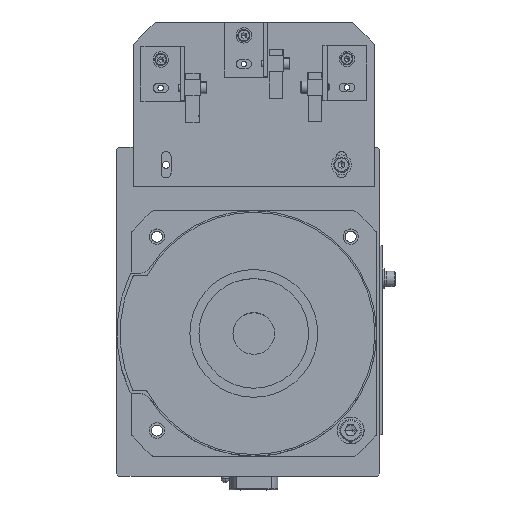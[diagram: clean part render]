
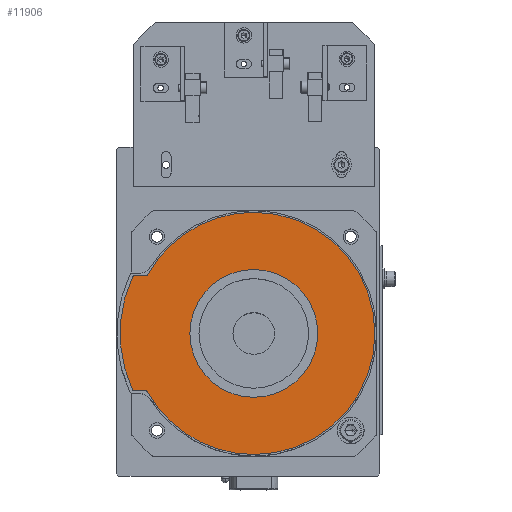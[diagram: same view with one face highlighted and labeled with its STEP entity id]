
A CAD part, top view. The second image highlights one B-rep face of the part: STEP entity #11906.
In plain terms, the highlighted planar face has unit normal (0, 0, 1) as drawn and (0, 1, 0) by its records, which use the part's own axes.
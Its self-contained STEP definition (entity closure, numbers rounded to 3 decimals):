
#568 = CIRCLE ( 'NONE', #25744, 61. ) ;
#907 = VERTEX_POINT ( 'NONE', #31883 ) ;
#1854 = DIRECTION ( 'NONE',  ( 0., 1., 0. ) ) ;
#2308 = AXIS2_PLACEMENT_3D ( 'NONE', #12533, #32308, #2676 ) ;
#2394 = FACE_OUTER_BOUND ( 'NONE', #12076, .T. ) ;
#2676 = DIRECTION ( 'NONE',  ( 0., 0., 1. ) ) ;
#2703 = DIRECTION ( 'NONE',  ( 0., 0., -1. ) ) ;
#2719 = CIRCLE ( 'NONE', #39932, 29.15 ) ;
#2806 = CARTESIAN_POINT ( 'NONE',  ( 0., 63., 0. ) ) ;
#3115 = EDGE_CURVE ( 'NONE', #907, #26183, #41916, .T. ) ;
#3186 = CARTESIAN_POINT ( 'NONE',  ( -54.428, 63., -26.25 ) ) ;
#3301 = AXIS2_PLACEMENT_3D ( 'NONE', #28531, #18212, #41264 ) ;
#3709 = CARTESIAN_POINT ( 'NONE',  ( -49.209, 63., 26.25 ) ) ;
#4467 = ORIENTED_EDGE ( 'NONE', *, *, #34526, .T. ) ;
#5416 = EDGE_CURVE ( 'NONE', #41362, #30132, #21489, .T. ) ;
#6112 = CARTESIAN_POINT ( 'NONE',  ( 0., 63., -29.15 ) ) ;
#6988 = ORIENTED_EDGE ( 'NONE', *, *, #15823, .F. ) ;
#7097 = CARTESIAN_POINT ( 'NONE',  ( -55.335, 63., 25.671 ) ) ;
#7172 = AXIS2_PLACEMENT_3D ( 'NONE', #24495, #1854, #8458 ) ;
#7420 = ORIENTED_EDGE ( 'NONE', *, *, #3115, .F. ) ;
#8100 = DIRECTION ( 'NONE',  ( 0., -1., 0. ) ) ;
#8458 = DIRECTION ( 'NONE',  ( 0., 0., 1. ) ) ;
#10258 = AXIS2_PLACEMENT_3D ( 'NONE', #36017, #32437, #42482 ) ;
#11203 = VERTEX_POINT ( 'NONE', #3709 ) ;
#11906 = ADVANCED_FACE ( 'N', ( #2394, #34149 ), #22336, .F. ) ;
#12076 = EDGE_LOOP ( 'NONE', ( #20360, #13072, #34968, #22917, #7420, #4467, #18754, #25776, #13034, #6988 ) ) ;
#12133 = CARTESIAN_POINT ( 'NONE',  ( -54.428, 63., 26.25 ) ) ;
#12533 = CARTESIAN_POINT ( 'NONE',  ( -54.428, 63., -25.25 ) ) ;
#12596 = LINE ( 'NONE', #32010, #26474 ) ;
#12924 = EDGE_CURVE ( 'NONE', #42400, #31008, #40129, .T. ) ;
#13034 = ORIENTED_EDGE ( 'NONE', *, *, #22110, .F. ) ;
#13072 = ORIENTED_EDGE ( 'NONE', *, *, #36392, .F. ) ;
#15024 = CIRCLE ( 'NONE', #2308, 1. ) ;
#15067 = AXIS2_PLACEMENT_3D ( 'NONE', #35753, #22634, #22764 ) ;
#15695 = DIRECTION ( 'NONE',  ( -1., 0., 0. ) ) ;
#15716 = CARTESIAN_POINT ( 'NONE',  ( 0., 63., 0. ) ) ;
#15823 = EDGE_CURVE ( 'NONE', #39976, #25230, #34359, .T. ) ;
#16584 = LINE ( 'NONE', #39972, #24289 ) ;
#16640 = CARTESIAN_POINT ( 'NONE',  ( 0., 63., 29.15 ) ) ;
#16806 = EDGE_CURVE ( 'NONE', #26183, #41362, #23481, .T. ) ;
#16839 = DIRECTION ( 'NONE',  ( 0., 0., 1. ) ) ;
#17089 = VERTEX_POINT ( 'NONE', #17362 ) ;
#17362 = CARTESIAN_POINT ( 'NONE',  ( -49.209, 63., -26.25 ) ) ;
#17558 = DIRECTION ( 'NONE',  ( 0., 0., 1. ) ) ;
#17791 = ORIENTED_EDGE ( 'NONE', *, *, #40845, .F. ) ;
#18164 = CARTESIAN_POINT ( 'NONE',  ( -48.334, 63., 26.766 ) ) ;
#18212 = DIRECTION ( 'NONE',  ( 0., -1., 0. ) ) ;
#18754 = ORIENTED_EDGE ( 'NONE', *, *, #19194, .F. ) ;
#19154 = CARTESIAN_POINT ( 'NONE',  ( -55.335, 63., -25.671 ) ) ;
#19194 = EDGE_CURVE ( 'NONE', #32342, #17089, #16584, .T. ) ;
#20360 = ORIENTED_EDGE ( 'NONE', *, *, #26603, .F. ) ;
#21193 = AXIS2_PLACEMENT_3D ( 'NONE', #36762, #30304, #16839 ) ;
#21489 = CIRCLE ( 'NONE', #24305, 55.25 ) ;
#21864 = DIRECTION ( 'NONE',  ( 0., 0., -1. ) ) ;
#22110 = EDGE_CURVE ( 'NONE', #25230, #30237, #568, .T. ) ;
#22336 = PLANE ( 'NONE',  #41527 ) ;
#22634 = DIRECTION ( 'NONE',  ( 0., -1., 0. ) ) ;
#22764 = DIRECTION ( 'NONE',  ( 0., 0., 1. ) ) ;
#22917 = ORIENTED_EDGE ( 'NONE', *, *, #16806, .F. ) ;
#23481 = CIRCLE ( 'NONE', #10258, 55.25 ) ;
#23646 = DIRECTION ( 'NONE',  ( 1., 0., 0. ) ) ;
#23774 = AXIS2_PLACEMENT_3D ( 'NONE', #33955, #40855, #24246 ) ;
#24182 = EDGE_CURVE ( 'NONE', #30237, #32342, #15024, .T. ) ;
#24246 = DIRECTION ( 'NONE',  ( 0., 0., -1. ) ) ;
#24289 = VECTOR ( 'NONE', #23646, 1000. ) ;
#24305 = AXIS2_PLACEMENT_3D ( 'NONE', #33729, #8100, #17558 ) ;
#24495 = CARTESIAN_POINT ( 'NONE',  ( -49.209, 63., 27.25 ) ) ;
#25230 = VERTEX_POINT ( 'NONE', #7097 ) ;
#25729 = DIRECTION ( 'NONE',  ( 0., 1., 0. ) ) ;
#25744 = AXIS2_PLACEMENT_3D ( 'NONE', #42505, #42074, #32314 ) ;
#25776 = ORIENTED_EDGE ( 'NONE', *, *, #24182, .F. ) ;
#26183 = VERTEX_POINT ( 'NONE', #39250 ) ;
#26474 = VECTOR ( 'NONE', #15695, 1000. ) ;
#26603 = EDGE_CURVE ( 'NONE', #11203, #39976, #12596, .T. ) ;
#28531 = CARTESIAN_POINT ( 'NONE',  ( 0., 63., 0. ) ) ;
#29457 = CIRCLE ( 'NONE', #7172, 1. ) ;
#29797 = CIRCLE ( 'NONE', #15067, 1. ) ;
#30132 = VERTEX_POINT ( 'NONE', #18164 ) ;
#30237 = VERTEX_POINT ( 'NONE', #19154 ) ;
#30304 = DIRECTION ( 'NONE',  ( 0., -1., 0. ) ) ;
#31008 = VERTEX_POINT ( 'NONE', #16640 ) ;
#31883 = CARTESIAN_POINT ( 'NONE',  ( -48.334, 63., -26.766 ) ) ;
#32010 = CARTESIAN_POINT ( 'NONE',  ( -54.428, 63., 26.25 ) ) ;
#32308 = DIRECTION ( 'NONE',  ( 0., -1., 0. ) ) ;
#32314 = DIRECTION ( 'NONE',  ( 0., 0., 1. ) ) ;
#32342 = VERTEX_POINT ( 'NONE', #3186 ) ;
#32437 = DIRECTION ( 'NONE',  ( 0., -1., 0. ) ) ;
#33729 = CARTESIAN_POINT ( 'NONE',  ( 0., 63., 0. ) ) ;
#33955 = CARTESIAN_POINT ( 'NONE',  ( 0., 63., 0. ) ) ;
#34149 = FACE_BOUND ( 'NONE', #40155, .T. ) ;
#34359 = CIRCLE ( 'NONE', #21193, 1. ) ;
#34526 = EDGE_CURVE ( 'NONE', #907, #17089, #29797, .T. ) ;
#34968 = ORIENTED_EDGE ( 'NONE', *, *, #5416, .F. ) ;
#35753 = CARTESIAN_POINT ( 'NONE',  ( -49.209, 63., -27.25 ) ) ;
#36017 = CARTESIAN_POINT ( 'NONE',  ( 0., 63., 0. ) ) ;
#36102 = CARTESIAN_POINT ( 'NONE',  ( 0., 63., 55.25 ) ) ;
#36392 = EDGE_CURVE ( 'NONE', #30132, #11203, #29457, .T. ) ;
#36762 = CARTESIAN_POINT ( 'NONE',  ( -54.428, 63., 25.25 ) ) ;
#39250 = CARTESIAN_POINT ( 'NONE',  ( 0., 63., -55.25 ) ) ;
#39932 = AXIS2_PLACEMENT_3D ( 'NONE', #2806, #25729, #21864 ) ;
#39972 = CARTESIAN_POINT ( 'NONE',  ( -49.209, 63., -26.25 ) ) ;
#39976 = VERTEX_POINT ( 'NONE', #12133 ) ;
#40129 = CIRCLE ( 'NONE', #23774, 29.15 ) ;
#40155 = EDGE_LOOP ( 'NONE', ( #42101, #17791 ) ) ;
#40845 = EDGE_CURVE ( 'NONE', #31008, #42400, #2719, .T. ) ;
#40855 = DIRECTION ( 'NONE',  ( 0., 1., 0. ) ) ;
#41264 = DIRECTION ( 'NONE',  ( 0., 0., 1. ) ) ;
#41362 = VERTEX_POINT ( 'NONE', #36102 ) ;
#41527 = AXIS2_PLACEMENT_3D ( 'NONE', #15716, #42089, #2703 ) ;
#41916 = CIRCLE ( 'NONE', #3301, 55.25 ) ;
#42074 = DIRECTION ( 'NONE',  ( 0., -1., 0. ) ) ;
#42089 = DIRECTION ( 'NONE',  ( 0., -1., 0. ) ) ;
#42101 = ORIENTED_EDGE ( 'NONE', *, *, #12924, .F. ) ;
#42400 = VERTEX_POINT ( 'NONE', #6112 ) ;
#42482 = DIRECTION ( 'NONE',  ( 0., 0., 1. ) ) ;
#42505 = CARTESIAN_POINT ( 'NONE',  ( 0., 63., 0. ) ) ;
